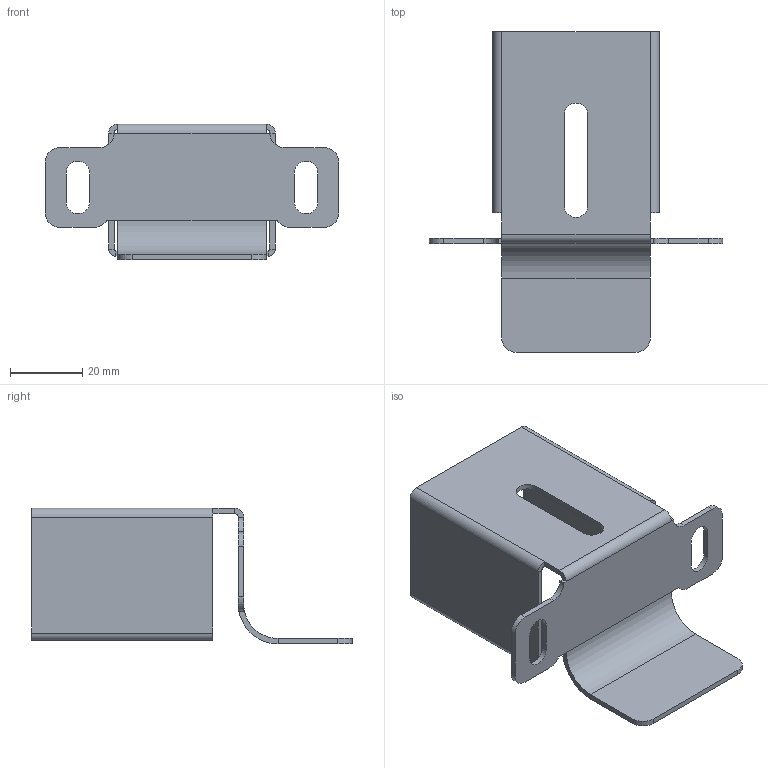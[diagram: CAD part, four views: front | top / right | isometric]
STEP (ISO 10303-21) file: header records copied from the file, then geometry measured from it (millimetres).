
FILE_DESCRIPTION (( 'STEP AP203' ), '1' );
FILE_NAME ('800.029.150.STEP', '2018-03-12T08:46:51', ( '' ), ( '' ), 'SwSTEP 2.0', 'SolidWorks 2016', '' );
FILE_SCHEMA (( 'CONFIG_CONTROL_DESIGN' ));
Length unit declared in the file: millimetre
Products named in the file (1): 800.029.150
Bounding box: 81 x 88.5 x 37.5 mm (x, y, z)
Volume: 14105 mm3; surface area: 19846.3 mm2
Topology: 1 solids, 1 shells, 92 faces, 222 edges, 132 vertices
Faces by surface type: plane 58, cylinder 34
Entity records: 2719 total; most frequent: DIRECTION 476, CARTESIAN_POINT 447, ORIENTED_EDGE 444, EDGE_CURVE 222, AXIS2_PLACEMENT_3D 161, LINE 154, VECTOR 154, VERTEX_POINT 132
